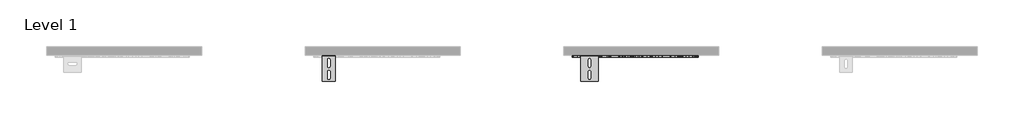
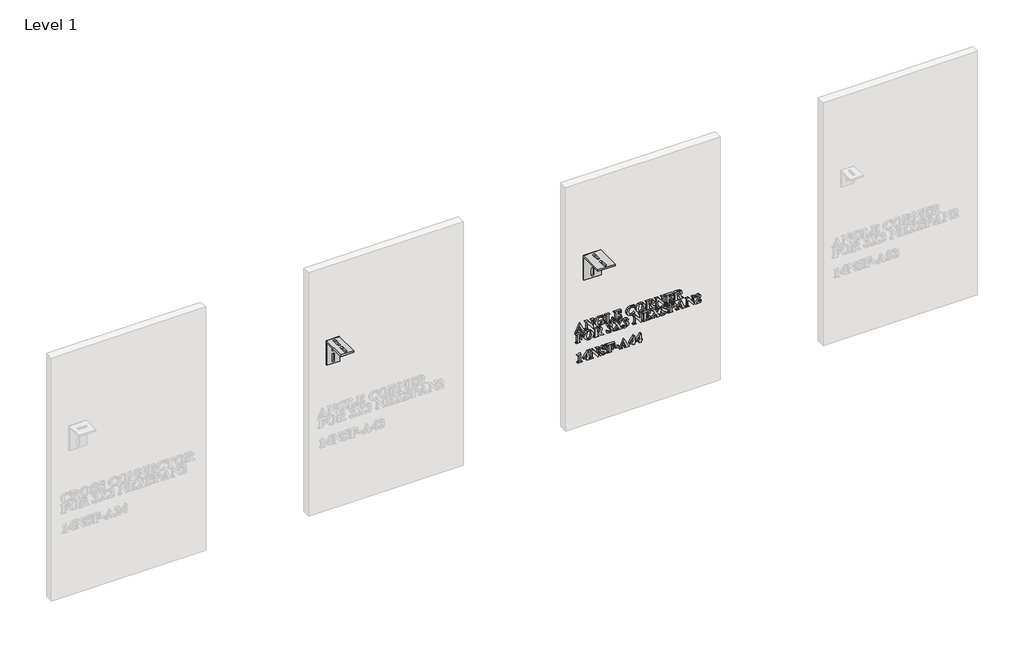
# One storey, part 8 of 21: 4 proxies.
"""IFC4 building model written with IfcOpenShell, lengths in millimetres."""

from ifc_helpers import new_model, si_unit, frame, origin, place, context, project, spatial, polyline, outline, extrude, transform, mapped, element, save
from components import generic_models_13be16ed, generic_models_ea1f8331

model = new_model("IFC4")

# Units and contexts
model_context = context("Model", 3, world=origin())
ifc_project = project(units=[si_unit("LENGTHUNIT", "METRE", prefix="MILLI")], contexts=[model_context])

# Site, building, storey
site = spatial("IfcSite", under=ifc_project)
building = spatial("IfcBuilding", under=site)
storey = spatial("IfcBuildingStorey", under=building, Name="Level 1", Elevation=0.0)

# Proxies
placement = place(None, origin())
element("IfcBuildingElementProxy", 1, Name="2\"\" Arial", ObjectType="2\"\" Arial", at=placement, inside=storey, context=model_context, shape_type="SweptSolid", body=[
    extrude(outline(polyline([(615.3485426, 10010.1620487), (608.7003734, 10013.0844731), (604.559118, 10014.4695083), (602.869375, 10013.6246368), (602.0522042, 10008.3061015), (600.2793591, 10008.3061015), (600.2793591, 10033.7076479), (602.0522042, 10033.7076479), (603.4095388, 10030.0096038), (610.9025794, 10025.577491), (653.4647125, 10005.9238409), (612.066009, 9987.1012119), (604.3375124, 9982.6344732), (602.0522042, 9978.0153807), (600.2793591, 9978.0153807), (600.2793591, 9995.7853829), (602.0522042, 9995.7853829), (602.9386268, 9990.6607525), (606.0272554, 9988.8879074), (610.0300072, 9989.9682349), (615.3485426, 9992.3781962), (615.3485426, 10010.1620487)]), holes=[polyline([(618.8942328, 10008.6108092), (618.8942328, 9993.9848371), (635.2376487, 10001.3947756), (618.8942328, 10008.6108092)])]), frame((0.0, -15490.3579358, 0.0), z_axis=(0.0, 1.0, 0.0), x_axis=(0.0, 0.0, 1.0)), (0.0, 0.0, 1.0), 12.7),
    extrude(outline(polyline([(652.5782899, 10053.6798561), (652.5782899, 10035.2588873), (650.8054448, 10035.2588873), (650.2029545, 10038.9223056), (647.0519993, 10042.5718734), (609.1435847, 10042.5718734), (603.693471, 10041.0137088), (602.0522042, 10035.480493), (600.2793591, 10035.480493), (600.2793591, 10053.2089441), (602.0522042, 10052.1147663), (603.5134164, 10047.938885), (609.1435847, 10046.1175637), (642.5506348, 10046.1175637), (599.3929366, 10079.9401243), (599.3929366, 10081.5744659), (641.9412193, 10081.5744659), (647.3774826, 10082.2323577), (649.6627907, 10084.0675294), (650.8054448, 10088.6658464), (652.5782899, 10088.6658464), (652.5782899, 10070.9373952), (650.8054448, 10070.9373952), (648.5616877, 10076.7683936), (641.9412193, 10078.0287757), (621.5119494, 10078.0287757), (652.5782899, 10053.6798561)])), frame((0.0, -15490.3579358, 0.0), z_axis=(0.0, 1.0, 0.0), x_axis=(0.0, 0.0, 1.0)), (0.0, 0.0, 1.0), 12.7),
    extrude(outline(polyline([(653.4647125, 10143.6240449), (653.4647125, 10141.8511997), (650.6600161, 10140.2237833), (649.9190223, 10138.2916592), (651.2625064, 10133.9841996), (652.896848, 10128.7072153), (653.4647125, 10121.975944), (651.4564114, 10110.9285566), (645.4315081, 10101.9414092), (636.4945682, 10095.9736386), (625.7501572, 10093.9843817), (613.9773577, 10096.6020983), (606.6505212, 10102.287668), (601.3943125, 10110.6809816), (599.3929366, 10122.6546113), (600.4663389, 10133.5271379), (603.6449948, 10143.6240449), (615.3485426, 10143.6240449), (618.3402187, 10143.9703037), (620.002261, 10145.750074), (620.6670779, 10149.8290028), (622.439923, 10149.8290028), (622.439923, 10124.1227486), (620.6670779, 10125.5354846), (620.0576624, 10128.9288209), (618.6864775, 10130.7709178), (615.3485426, 10131.2141291), (603.6449948, 10131.2141291), (602.4607896, 10127.4329829), (602.0522042, 10123.8457416), (604.7114719, 10115.1269447), (613.0355337, 10109.8153345), (626.2210692, 10108.1671426), (638.3193521, 10109.6837562), (647.5090609, 10114.8499377), (650.8054448, 10123.9980954), (646.961972, 10134.5866899), (635.7362614, 10141.8511997), (635.7362614, 10143.6240449), (653.4647125, 10143.6240449)])), frame((0.0, -15490.3579358, 0.0), z_axis=(0.0, 1.0, 0.0), x_axis=(0.0, 0.0, 1.0)), (0.0, 0.0, 1.0), 12.7),
    extrude(outline(polyline([(619.7806553, 10202.1279336), (619.7806553, 10200.3550885), (610.1269597, 10196.5600919), (605.3416629, 10191.809421), (603.8250493, 10184.9396462), (603.8250493, 10180.6321866), (604.1713081, 10176.0200192), (605.7848742, 10174.2194734), (610.8333277, 10173.7624118), (643.7140644, 10173.7624118), (648.298531, 10174.1363713), (650.0436754, 10175.5491072), (650.8054448, 10178.8177904), (650.8054448, 10180.8537922), (652.5782899, 10180.8537922), (652.5782899, 10154.2611155), (650.8054448, 10154.2611155), (650.8054448, 10155.9370082), (650.0990768, 10159.2887935), (648.4439597, 10160.9439106), (643.7140644, 10161.352496), (609.1435847, 10161.352496), (604.559118, 10160.9508358), (602.8139736, 10159.4549977), (602.0522042, 10155.9370082), (602.0522042, 10154.2611155), (600.2793591, 10154.2611155), (600.2793591, 10200.3550885), (619.7806553, 10202.1279336)])), frame((0.0, -15490.3579358, 0.0), z_axis=(0.0, 1.0, 0.0), x_axis=(0.0, 0.0, 1.0)), (0.0, 0.0, 1.0), 12.7),
    extrude(outline(polyline([(649.0325997, 10226.0613426), (649.0325997, 10230.4934554), (648.3400821, 10238.5266598), (644.7320653, 10244.2191546), (636.6226839, 10247.3354839), (636.6226839, 10249.1083291), (652.5782899, 10249.1083291), (652.5782899, 10206.5600464), (650.8054448, 10206.5600464), (650.8054448, 10208.235939), (649.7805187, 10212.086337), (647.827619, 10213.4713722), (643.7140644, 10213.6514268), (609.1435847, 10213.6514268), (604.559118, 10213.2497666), (602.8139736, 10211.7539285), (602.0522042, 10208.235939), (602.0522042, 10206.5600464), (600.2793591, 10206.5600464), (600.2793591, 10250.3687111), (616.8859317, 10251.3105351), (606.4427659, 10245.1956045), (602.9386268, 10233.8729414), (602.9386268, 10230.8535645), (603.5549675, 10227.7372352), (605.1339076, 10226.4145266), (610.4039667, 10226.0613426), (625.0991907, 10226.0613426), (624.0950401, 10231.068245), (620.1753904, 10234.1014722), (612.6892749, 10235.8119907), (612.6892749, 10237.5848358), (640.1683741, 10237.5848358), (640.1683741, 10235.8119907), (630.9024884, 10233.3050769), (627.7584584, 10226.0613426), (649.0325997, 10226.0613426)])), frame((0.0, -15490.3579358, 0.0), z_axis=(0.0, 1.0, 0.0), x_axis=(0.0, 0.0, 1.0)), (0.0, 0.0, 1.0), 12.7),
    extrude(outline(polyline([(653.4647125, 10327.9999366), (653.4647125, 10326.2270915), (650.7708189, 10325.0775122), (649.9190223, 10322.986109), (651.2209554, 10318.5816969), (653.4647125, 10307.1967072), (649.8012943, 10293.394831), (639.5035572, 10283.0693933), (625.4731502, 10279.246696), (612.2460636, 10282.7162093), (602.710096, 10292.570735), (599.3929366, 10307.1828569), (601.4220132, 10318.1107849), (607.9663047, 10327.113514), (612.4676693, 10327.113514), (605.0785062, 10318.740976), (602.9386268, 10309.9944784), (605.854126, 10300.5208373), (614.4551948, 10295.1469006), (627.0797911, 10293.4294569), (639.8636664, 10295.7563161), (647.1420266, 10301.490362), (649.9190223, 10310.1052812), (646.2625292, 10320.1675623), (635.7362614, 10326.2270915), (635.7362614, 10327.9999366), (653.4647125, 10327.9999366)])), frame((0.0, -15490.3579358, 0.0), z_axis=(0.0, 1.0, 0.0), x_axis=(0.0, 0.0, 1.0)), (0.0, 0.0, 1.0), 12.7),
    extrude(outline(polyline([(653.4647125, 10363.11058), (651.8788471, 10352.5687305), (646.1794271, 10343.8239642), (637.4606302, 10337.9392957), (626.8166344, 10335.9777396), (617.1733265, 10337.4839654), (608.9358294, 10342.0026429), (601.7786598, 10351.2200524), (599.3929366, 10363.6091927), (601.8929252, 10375.9671697), (609.392891, 10385.1741915), (626.8581854, 10390.9359381), (637.4969874, 10389.0038139), (646.2002026, 10383.2074414), (651.884041, 10374.3189777), (653.4647125, 10363.11058)]), holes=[polyline([(650.8054448, 10363.5676416), (648.6863409, 10370.1811849), (641.4356814, 10374.9041551), (625.9440622, 10376.7531772), (611.8444034, 10374.938781), (603.9774032, 10369.869552), (602.0522042, 10363.4983899), (606.5120177, 10354.6757154), (626.2487699, 10350.1605005), (643.4924587, 10353.0829248), (648.9771983, 10357.5046499), (650.8054448, 10363.5676416)])]), frame((0.0, -15490.3579358, 0.0), z_axis=(0.0, 1.0, 0.0), x_axis=(0.0, 0.0, 1.0)), (0.0, 0.0, 1.0), 12.7),
    extrude(outline(polyline([(624.2127681, 10414.8693471), (624.2127681, 10418.3042345), (600.2793591, 10435.0908617), (600.2793591, 10451.2126719), (602.0522042, 10451.2126719), (603.3956884, 10447.9439887), (607.7723998, 10444.7999587), (625.4592998, 10432.3900429), (628.9911397, 10439.3429199), (638.395529, 10443.2348689), (646.5326111, 10440.4717236), (651.2902072, 10433.3387921), (652.5782899, 10419.5369159), (652.5782899, 10395.3680509), (650.8054448, 10395.3680509), (650.2029545, 10400.1533476), (648.5963136, 10401.9469683), (643.7140644, 10402.4594313), (609.1435847, 10402.4594313), (604.2751858, 10401.9469683), (602.6685449, 10400.1741232), (602.0522042, 10395.3680509), (600.2793591, 10395.3680509), (600.2793591, 10421.9607275), (602.0522042, 10421.9607275), (602.6546946, 10417.1754308), (604.2613354, 10415.3818101), (609.1435847, 10414.8693471), (624.2127681, 10414.8693471)]), holes=[polyline([(649.9190223, 10414.8693471), (649.9190223, 10418.9967521), (647.0450741, 10428.0271819), (638.160073, 10430.8249531), (631.4288018, 10429.3014143), (627.862336, 10425.1116827), (626.8720358, 10417.0715531), (626.8720358, 10414.8693471), (649.9190223, 10414.8693471)])]), frame((0.0, -15490.3579358, 0.0), z_axis=(0.0, 1.0, 0.0), x_axis=(0.0, 0.0, 1.0)), (0.0, 0.0, 1.0), 12.7),
    extrude(outline(polyline([(652.5782899, 10470.2984576), (652.5782899, 10451.8774888), (650.8054448, 10451.8774888), (650.2029545, 10455.540907), (647.0519993, 10459.1904749), (609.1435847, 10459.1904749), (603.693471, 10457.6323103), (602.0522042, 10452.0990945), (600.2793591, 10452.0990945), (600.2793591, 10469.8275456), (602.0522042, 10468.7333677), (603.5134164, 10464.5574865), (609.1435847, 10462.7361651), (642.5506348, 10462.7361651), (599.3929366, 10496.5587258), (599.3929366, 10498.1930674), (641.9412193, 10498.1930674), (647.3774826, 10498.8509591), (649.6627907, 10500.6861308), (650.8054448, 10505.2844478), (652.5782899, 10505.2844478), (652.5782899, 10487.5559967), (650.8054448, 10487.5559967), (648.5616877, 10493.3869951), (641.9412193, 10494.6473772), (621.5119494, 10494.6473772), (652.5782899, 10470.2984576)])), frame((0.0, -15490.3579358, 0.0), z_axis=(0.0, 1.0, 0.0), x_axis=(0.0, 0.0, 1.0)), (0.0, 0.0, 1.0), 12.7),
    extrude(outline(polyline([(649.0325997, 10529.2178569), (649.0325997, 10533.6499696), (648.3400821, 10541.6831741), (644.7320653, 10547.3756689), (636.6226839, 10550.4919982), (636.6226839, 10552.2648433), (652.5782899, 10552.2648433), (652.5782899, 10509.7165606), (650.8054448, 10509.7165606), (650.8054448, 10511.3924533), (649.7805187, 10515.2428513), (647.827619, 10516.6278865), (643.7140644, 10516.8079411), (609.1435847, 10516.8079411), (604.559118, 10516.4062809), (602.8139736, 10514.9104428), (602.0522042, 10511.3924533), (602.0522042, 10509.7165606), (600.2793591, 10509.7165606), (600.2793591, 10553.5252254), (616.8859317, 10554.4670494), (606.4427659, 10548.3521188), (602.9386268, 10537.0294556), (602.9386268, 10534.0100788), (603.5549675, 10530.8937495), (605.1339076, 10529.5710409), (610.4039667, 10529.2178569), (625.0991907, 10529.2178569), (624.0950401, 10534.2247593), (620.1753904, 10537.2579865), (612.6892749, 10538.968505), (612.6892749, 10540.7413501), (640.1683741, 10540.7413501), (640.1683741, 10538.968505), (630.9024884, 10536.4615912), (627.7584584, 10529.2178569), (649.0325997, 10529.2178569)])), frame((0.0, -15490.3579358, 0.0), z_axis=(0.0, 1.0, 0.0), x_axis=(0.0, 0.0, 1.0)), (0.0, 0.0, 1.0), 12.7),
    extrude(outline(polyline([(624.2127681, 10580.6303651), (624.2127681, 10584.0652525), (600.2793591, 10600.8518797), (600.2793591, 10616.9736899), (602.0522042, 10616.9736899), (603.3956884, 10613.7050068), (607.7723998, 10610.5609768), (625.4592998, 10598.151061), (628.9911397, 10605.1039379), (638.395529, 10608.9958869), (646.5326111, 10606.2327416), (651.2902072, 10599.0998101), (652.5782899, 10585.2979339), (652.5782899, 10561.1290689), (650.8054448, 10561.1290689), (650.2029545, 10565.9143657), (648.5963136, 10567.7079863), (643.7140644, 10568.2204493), (609.1435847, 10568.2204493), (604.2751858, 10567.7079863), (602.6685449, 10565.9351412), (602.0522042, 10561.1290689), (600.2793591, 10561.1290689), (600.2793591, 10587.7217456), (602.0522042, 10587.7217456), (602.6546946, 10582.9364488), (604.2613354, 10581.1428282), (609.1435847, 10580.6303651), (624.2127681, 10580.6303651)]), holes=[polyline([(649.9190223, 10580.6303651), (649.9190223, 10584.7577702), (647.0450741, 10593.7882), (638.160073, 10596.5859711), (631.4288018, 10595.0624324), (627.862336, 10590.8727008), (626.8720358, 10582.8325712), (626.8720358, 10580.6303651), (649.9190223, 10580.6303651)])]), frame((0.0, -15490.3579358, 0.0), z_axis=(0.0, 1.0, 0.0), x_axis=(0.0, 0.0, 1.0)), (0.0, 0.0, 1.0), 12.7),
    extrude(outline(polyline([(584.9362614, 9999.1371682), (584.9362614, 10003.569281), (584.3406962, 10012.1287988), (580.6288018, 10018.5415119), (572.5263456, 10021.2977321), (572.5263456, 10023.0705772), (588.4819516, 10023.0705772), (588.4819516, 9979.6358719), (586.7091065, 9979.6358719), (586.7091065, 9981.3117646), (586.0027385, 9984.6635499), (584.3476214, 9986.318667), (579.617726, 9986.7272524), (545.0472463, 9986.7272524), (540.4627797, 9986.3255922), (538.7176353, 9984.8297541), (537.9558659, 9981.3117646), (537.9558659, 9979.6358719), (536.1830208, 9979.6358719), (536.1830208, 10006.2285486), (537.9558659, 10006.2285486), (537.9558659, 10004.5665063), (538.6622338, 10001.2216462), (540.317351, 9999.5596039), (545.0472463, 9999.1371682), (561.0028523, 9999.1371682), (561.0028523, 10000.9100133), (558.5859658, 10007.8213392), (548.5929366, 10011.547084), (548.5929366, 10013.3199291), (576.9584584, 10013.3199291), (576.9584584, 10011.547084), (569.5762205, 10009.6911367), (565.6981218, 10006.2077731), (564.5485426, 10000.9100133), (564.5485426, 9999.1371682), (584.9362614, 9999.1371682)])), frame((0.0, -15490.3579358, 0.0), z_axis=(0.0, 1.0, 0.0), x_axis=(0.0, 0.0, 1.0)), (0.0, 0.0, 1.0), 12.7),
    extrude(outline(polyline([(589.3683741, 10055.521953), (587.7825088, 10044.9801035), (582.0830888, 10036.2353372), (573.3642919, 10030.3506687), (562.720296, 10028.3891125), (553.0769882, 10029.8953384), (544.839491, 10034.4140158), (537.6823214, 10043.6314254), (535.2965982, 10056.0205657), (537.7965868, 10068.3785426), (545.2965527, 10077.5855644), (562.7618471, 10083.347311), (573.4006491, 10081.4151869), (582.1038643, 10075.6188144), (587.7877027, 10066.7303507), (589.3683741, 10055.521953)]), holes=[polyline([(586.7091065, 10055.9790146), (584.5900026, 10062.5925579), (577.339343, 10067.3155281), (561.8477238, 10069.1645501), (547.7480651, 10067.350154), (539.8810649, 10062.280925), (537.9558659, 10055.9097628), (542.4156794, 10047.0870883), (562.1524316, 10042.5718734), (579.3961204, 10045.4942978), (584.88086, 10049.9160228), (586.7091065, 10055.9790146)])]), frame((0.0, -15490.3579358, 0.0), z_axis=(0.0, 1.0, 0.0), x_axis=(0.0, 0.0, 1.0)), (0.0, 0.0, 1.0), 12.7),
    extrude(outline(polyline([(560.1164298, 10107.28072), (560.1164298, 10110.7156075), (536.1830208, 10127.5022346), (536.1830208, 10143.6240449), (537.9558659, 10143.6240449), (539.2993501, 10140.3553617), (543.6760614, 10137.2113317), (561.3629615, 10124.8014159), (564.8948014, 10131.7542928), (574.2991907, 10135.6462418), (582.4362727, 10132.8830965), (587.1938688, 10125.750165), (588.4819516, 10111.9482888), (588.4819516, 10087.7794238), (586.7091065, 10087.7794238), (586.1066161, 10092.5647206), (584.4999753, 10094.3583412), (579.617726, 10094.8708043), (545.0472463, 10094.8708043), (540.1788474, 10094.3583412), (538.5722066, 10092.5854961), (537.9558659, 10087.7794238), (536.1830208, 10087.7794238), (536.1830208, 10114.3721005), (537.9558659, 10114.3721005), (538.5583562, 10109.5868037), (540.1649971, 10107.7931831), (545.0472463, 10107.28072), (560.1164298, 10107.28072)]), holes=[polyline([(585.8226839, 10107.28072), (585.8226839, 10111.4081251), (582.9487358, 10120.4385549), (574.0637347, 10123.2363261), (567.3324634, 10121.7127873), (563.7659977, 10117.5230557), (562.7756975, 10109.4829261), (562.7756975, 10107.28072), (585.8226839, 10107.28072)])]), frame((0.0, -15490.3579358, 0.0), z_axis=(0.0, 1.0, 0.0), x_axis=(0.0, 0.0, 1.0)), (0.0, 0.0, 1.0), 12.7),
    extrude(outline(polyline([(564.5485426, 10172.8759892), (558.3782106, 10184.7665168), (548.6206373, 10188.8315952), (542.8796662, 10186.7263417), (540.6151335, 10181.6848134), (543.7314628, 10174.4272287), (547.1524999, 10169.9258641), (547.706514, 10167.4605014), (546.2176011, 10164.4341994), (542.6234346, 10163.1253411), (537.9004645, 10165.3829485), (535.2965982, 10175.3275016), (536.8114805, 10184.5033601), (541.3561274, 10191.6155161), (548.0648919, 10196.1757446), (556.0721269, 10197.6958208), (564.6177943, 10194.8564985), (570.3518402, 10186.6155388), (574.5554222, 10193.0005513), (579.5207736, 10195.0365531), (586.4182491, 10191.4008356), (589.3683741, 10182.1695757), (586.9237869, 10172.2180975), (579.105263, 10165.7846088), (584.0498388, 10175.1751477), (581.6883537, 10181.1238741), (576.0304847, 10183.5130599), (571.3282901, 10182.2319023), (567.8795523, 10179.1917499), (564.5485426, 10172.8759892)])), frame((0.0, -15490.3579358, 0.0), z_axis=(0.0, 1.0, 0.0), x_axis=(0.0, 0.0, 1.0)), (0.0, 0.0, 1.0), 12.7),
    extrude(outline(polyline([(566.5845444, 10235.2302759), (578.4681468, 10244.7177673), (584.2021927, 10249.7315949), (586.1481672, 10252.6955703), (586.7091065, 10256.3520634), (588.4819516, 10256.3520634), (588.4819516, 10236.9200189), (586.7091065, 10236.9200189), (586.2243441, 10240.382607), (584.88086, 10242.1000507), (583.0110624, 10242.6956159), (575.9473826, 10238.457408), (569.5069687, 10233.3050769), (579.146814, 10226.9754659), (584.3406962, 10224.0530415), (586.0304392, 10224.939464), (586.7091065, 10229.3577265), (588.4819516, 10229.3577265), (588.4819516, 10203.8176766), (586.7091065, 10203.8176766), (585.9334867, 10206.5877471), (584.2021927, 10208.6237489), (579.0775623, 10212.363344), (559.4377625, 10225.2718725), (546.8616425, 10215.2026663), (539.7425613, 10208.000483), (537.9558659, 10202.6126959), (536.1830208, 10202.6126959), (536.1830208, 10222.9588636), (537.9558659, 10222.9588636), (538.1774715, 10219.6486294), (539.4655543, 10216.9131848), (541.4046036, 10215.9921364), (547.000146, 10219.5655273), (556.5291885, 10227.1832211), (545.781315, 10234.2469009), (540.4627797, 10237.2108763), (538.8422884, 10236.3244538), (537.9558659, 10232.404804), (536.1830208, 10232.404804), (536.1830208, 10257.6955476), (537.9558659, 10257.6955476), (539.2993501, 10254.0944559), (545.6428115, 10248.9836759), (566.5845444, 10235.2302759)])), frame((0.0, -15490.3579358, 0.0), z_axis=(0.0, 1.0, 0.0), x_axis=(0.0, 0.0, 1.0)), (0.0, 0.0, 1.0), 12.7),
    extrude(outline(polyline([(564.5485426, 10268.6096253), (558.3782106, 10280.5001529), (548.6206373, 10284.5652313), (542.8796662, 10282.4599777), (540.6151335, 10277.4184495), (543.7314628, 10270.1608648), (547.1524999, 10265.6595002), (547.706514, 10263.1941375), (546.2176011, 10260.1678355), (542.6234346, 10258.8589772), (537.9004645, 10261.1165846), (535.2965982, 10271.0611377), (536.8114805, 10280.2369962), (541.3561274, 10287.3491522), (548.0648919, 10291.9093807), (556.0721269, 10293.4294569), (564.6177943, 10290.5901346), (570.3518402, 10282.3491749), (574.5554222, 10288.7341874), (579.5207736, 10290.7701892), (586.4182491, 10287.1344717), (589.3683741, 10277.9032118), (586.9237869, 10267.9517336), (579.105263, 10261.5182448), (584.0498388, 10270.9087838), (581.6883537, 10276.8575102), (576.0304847, 10279.246696), (571.3282901, 10277.9655384), (567.8795523, 10274.925386), (564.5485426, 10268.6096253)])), frame((0.0, -15490.3579358, 0.0), z_axis=(0.0, 1.0, 0.0), x_axis=(0.0, 0.0, 1.0)), (0.0, 0.0, 1.0), 12.7),
    extrude(outline(polyline([(588.4819516, 10337.3350741), (588.4819516, 10318.9141054), (586.7091065, 10318.9141054), (586.1066161, 10322.5775236), (582.955661, 10326.2270915), (545.0472463, 10326.2270915), (539.5971326, 10324.6689268), (537.9558659, 10319.135711), (536.1830208, 10319.135711), (536.1830208, 10336.8641621), (537.9558659, 10335.7699843), (539.4170781, 10331.594103), (545.0472463, 10329.7727817), (578.4542964, 10329.7727817), (535.2965982, 10363.5953424), (535.2965982, 10365.2296839), (577.8448809, 10365.2296839), (583.2811442, 10365.8875757), (585.5664524, 10367.7227474), (586.7091065, 10372.3210644), (588.4819516, 10372.3210644), (588.4819516, 10354.5926133), (586.7091065, 10354.5926133), (584.4653494, 10360.4236116), (577.8448809, 10361.6839937), (557.4156111, 10361.6839937), (588.4819516, 10337.3350741)])), frame((0.0, -15490.3579358, 0.0), z_axis=(0.0, 1.0, 0.0), x_axis=(0.0, 0.0, 1.0)), (0.0, 0.0, 1.0), 12.7),
    extrude(outline(polyline([(584.9362614, 10396.2544734), (584.9362614, 10400.6865862), (584.2437437, 10408.7197906), (580.6357269, 10414.4122855), (572.5263456, 10417.5286148), (572.5263456, 10419.3014599), (588.4819516, 10419.3014599), (588.4819516, 10376.7531772), (586.7091065, 10376.7531772), (586.7091065, 10378.4290698), (585.6841804, 10382.2794678), (583.7312807, 10383.664503), (579.617726, 10383.8445576), (545.0472463, 10383.8445576), (540.4627797, 10383.4428974), (538.7176353, 10381.9470593), (537.9558659, 10378.4290698), (537.9558659, 10376.7531772), (536.1830208, 10376.7531772), (536.1830208, 10420.561842), (552.7895933, 10421.5036659), (542.3464276, 10415.3887353), (538.8422884, 10404.0660722), (538.8422884, 10401.0466954), (539.4586291, 10397.9303661), (541.0375693, 10396.6076574), (546.3076284, 10396.2544734), (561.0028523, 10396.2544734), (559.9987018, 10401.2613758), (556.079052, 10404.294603), (548.5929366, 10406.0051215), (548.5929366, 10407.7779666), (576.0720358, 10407.7779666), (576.0720358, 10406.0051215), (566.80615, 10403.4982077), (563.66212, 10396.2544734), (584.9362614, 10396.2544734)])), frame((0.0, -15490.3579358, 0.0), z_axis=(0.0, 1.0, 0.0), x_axis=(0.0, 0.0, 1.0)), (0.0, 0.0, 1.0), 12.7),
    extrude(outline(polyline([(566.5845444, 10459.4951827), (578.4681468, 10468.9826741), (584.2021927, 10473.9965017), (586.1481672, 10476.9604771), (586.7091065, 10480.6169701), (588.4819516, 10480.6169701), (588.4819516, 10461.1849257), (586.7091065, 10461.1849257), (586.2243441, 10464.6475138), (584.88086, 10466.3649575), (583.0110624, 10466.9605226), (575.9473826, 10462.7223148), (569.5069687, 10457.5699837), (579.146814, 10451.2403726), (584.3406962, 10448.3179482), (586.0304392, 10449.2043708), (586.7091065, 10453.6226332), (588.4819516, 10453.6226332), (588.4819516, 10428.0825833), (586.7091065, 10428.0825833), (585.9334867, 10430.8526538), (584.2021927, 10432.8886556), (579.0775623, 10436.6282508), (559.4377625, 10449.5367793), (546.8616425, 10439.467573), (539.7425613, 10432.2653898), (537.9558659, 10426.8776027), (536.1830208, 10426.8776027), (536.1830208, 10447.2237704), (537.9558659, 10447.2237704), (538.1774715, 10443.9135362), (539.4655543, 10441.1780916), (541.4046036, 10440.2570431), (547.000146, 10443.8304341), (556.5291885, 10451.4481279), (545.781315, 10458.5118076), (540.4627797, 10461.4757831), (538.8422884, 10460.5893605), (537.9558659, 10456.6697108), (536.1830208, 10456.6697108), (536.1830208, 10481.9604543), (537.9558659, 10481.9604543), (539.2993501, 10478.3593627), (545.6428115, 10473.2485826), (566.5845444, 10459.4951827)])), frame((0.0, -15490.3579358, 0.0), z_axis=(0.0, 1.0, 0.0), x_axis=(0.0, 0.0, 1.0)), (0.0, 0.0, 1.0), 12.7),
    extrude(outline(polyline([(589.3683741, 10521.2400539), (589.3683741, 10519.4672087), (586.4320994, 10518.3591806), (585.8226839, 10516.724839), (587.0622905, 10512.9644683), (588.7589586, 10508.4146275), (589.3683741, 10503.3315481), (585.040139, 10491.3994695), (574.548497, 10486.6695742), (567.9418789, 10488.3039157), (562.5056156, 10492.9853349), (556.5984403, 10503.8301608), (552.5541373, 10511.5863582), (549.2854542, 10514.8481162), (545.7259136, 10515.9215185), (540.2896503, 10513.2553257), (537.9558659, 10506.0877683), (542.2702507, 10495.2360171), (554.7978944, 10488.4424193), (554.7978944, 10486.6695742), (535.2965982, 10486.6695742), (535.2965982, 10488.4424193), (537.9697162, 10490.2637406), (538.8422884, 10492.4036201), (537.9835666, 10495.464548), (535.8575375, 10501.0116141), (535.2965982, 10505.6999584), (539.9780173, 10518.7608408), (551.1691021, 10523.8993215), (560.2687837, 10521.2816049), (568.7174987, 10508.5946821), (573.2050128, 10499.4534495), (576.7645534, 10495.5337997), (579.8254813, 10494.6473772), (584.6246284, 10497.0711888), (586.7091065, 10503.6501063), (582.5747763, 10513.6639111), (571.639923, 10519.4672087), (571.639923, 10521.2400539), (589.3683741, 10521.2400539)])), frame((0.0, -15490.3579358, 0.0), z_axis=(0.0, 1.0, 0.0), x_axis=(0.0, 0.0, 1.0)), (0.0, 0.0, 1.0), 12.7),
    extrude(outline(polyline([(560.1164298, 10546.946308), (561.030553, 10560.2010953), (565.9266526, 10569.3354027), (574.5623474, 10572.6525621), (584.5069004, 10567.6041087), (588.4819516, 10550.9490598), (588.4819516, 10527.4450118), (586.7091065, 10527.4450118), (586.1066161, 10532.2303085), (584.4999753, 10534.0239292), (579.617726, 10534.5363922), (545.0472463, 10534.5363922), (540.1788474, 10534.0239292), (538.5722066, 10532.2510841), (537.9558659, 10527.4450118), (536.1830208, 10527.4450118), (536.1830208, 10554.0376884), (537.9558659, 10554.0376884), (538.5583562, 10549.266242), (540.1649971, 10547.458771), (545.0472463, 10546.946308), (560.1164298, 10546.946308)]), holes=[polyline([(585.8226839, 10546.946308), (585.8226839, 10548.7330035), (583.0664638, 10557.3548479), (574.3822928, 10560.2426463), (565.5457679, 10557.3548479), (562.6925953, 10549.1346637), (562.7756975, 10546.946308), (585.8226839, 10546.946308)])]), frame((0.0, -15490.3579358, 0.0), z_axis=(0.0, 1.0, 0.0), x_axis=(0.0, 0.0, 1.0)), (0.0, 0.0, 1.0), 12.7),
    extrude(outline(polyline([(551.2522042, 10606.7244291), (544.604035, 10609.6468535), (540.4627797, 10611.0318887), (538.7730367, 10610.1870172), (537.9558659, 10604.8684819), (536.1830208, 10604.8684819), (536.1830208, 10630.2700283), (537.9558659, 10630.2700283), (539.3132004, 10626.5719842), (546.8062411, 10622.1398714), (589.3683741, 10602.4862213), (547.9696707, 10583.6635923), (540.241174, 10579.1968537), (537.9558659, 10574.5777611), (536.1830208, 10574.5777611), (536.1830208, 10592.3477633), (537.9558659, 10592.3477633), (538.8422884, 10587.2231329), (541.930917, 10585.4502878), (545.9336689, 10586.5306153), (551.2522042, 10588.9405766), (551.2522042, 10606.7244291)]), holes=[polyline([(554.7978944, 10605.1731897), (554.7978944, 10590.5472175), (571.1413103, 10597.957156), (554.7978944, 10605.1731897)])]), frame((0.0, -15490.3579358, 0.0), z_axis=(0.0, 1.0, 0.0), x_axis=(0.0, 0.0, 1.0)), (0.0, 0.0, 1.0), 12.7),
    extrude(outline(polyline([(588.4819516, 10650.2422365), (588.4819516, 10631.8212678), (586.7091065, 10631.8212678), (586.1066161, 10635.484686), (582.955661, 10639.1342539), (545.0472463, 10639.1342539), (539.5971326, 10637.5760892), (537.9558659, 10632.0428734), (536.1830208, 10632.0428734), (536.1830208, 10649.7713245), (537.9558659, 10648.6771467), (539.4170781, 10644.5012654), (545.0472463, 10642.6799441), (578.4542964, 10642.6799441), (535.2965982, 10676.5025047), (535.2965982, 10678.1368463), (577.8448809, 10678.1368463), (583.2811442, 10678.7947381), (585.5664524, 10680.6299098), (586.7091065, 10685.2282268), (588.4819516, 10685.2282268), (588.4819516, 10667.4997757), (586.7091065, 10667.4997757), (584.4653494, 10673.330774), (577.8448809, 10674.5911561), (557.4156111, 10674.5911561), (588.4819516, 10650.2422365)])), frame((0.0, -15490.3579358, 0.0), z_axis=(0.0, 1.0, 0.0), x_axis=(0.0, 0.0, 1.0)), (0.0, 0.0, 1.0), 12.7),
    extrude(outline(polyline([(536.1830208, 10719.3139441), (551.2522042, 10720.9344354), (548.1635756, 10718.836107), (547.1247992, 10716.8001052), (546.8200914, 10711.446944), (546.8200914, 10700.2835599), (566.3906394, 10717.0009353), (576.6260499, 10719.7987065), (582.5609259, 10717.9081334), (587.5470528, 10712.6796253), (589.3683741, 10705.2973875), (585.864235, 10695.3043582), (574.548497, 10690.2836054), (579.0152357, 10694.4525615), (580.5041486, 10700.0342535), (577.8241054, 10706.5092933), (571.0997593, 10709.1616358), (559.7286199, 10706.0591569), (536.1830208, 10687.8874945), (536.1830208, 10719.3139441)])), frame((0.0, -15490.3579358, 0.0), z_axis=(0.0, 1.0, 0.0), x_axis=(0.0, 0.0, 1.0)), (0.0, 0.0, 1.0), 12.7),
])
element("IfcBuildingElementProxy", 2, Name="2\"\" Arial", ObjectType="2\"\" Arial", at=placement, inside=storey, context=model_context, shape_type="SweptSolid", body=[
    extrude(outline(polyline([(463.8692305, 10008.4026674), (455.0050049, 9988.6451396), (453.2321598, 9989.3099565), (454.4648412, 9993.8667225), (453.827725, 9995.9442753), (452.3111114, 9997.1769567), (447.9136245, 9997.5093652), (421.3209478, 9997.5093652), (415.2544934, 9996.9899769), (413.2046413, 9995.0024514), (412.4567222, 9988.6451396), (410.6838771, 9988.6451396), (410.6838771, 10017.0106614), (412.4567222, 10015.77798), (413.273893, 10011.3043162), (415.3791466, 10009.4691445), (421.3209478, 10009.0328584), (463.8692305, 10008.4026674)])), frame((0.0, -15490.3579358, 0.0), z_axis=(0.0, 1.0, 0.0), x_axis=(0.0, 0.0, 1.0)), (0.0, 0.0, 1.0), 12.7),
    extrude(outline(polyline([(430.1851733, 10025.874887), (422.2073703, 10025.874887), (422.2073703, 10044.4897607), (410.6838771, 10044.4897607), (410.6838771, 10056.0132539), (422.2073703, 10056.0132539), (422.2073703, 10060.4453667), (430.1851733, 10060.4453667), (430.1851733, 10056.0132539), (463.8692305, 10056.0132539), (463.8692305, 10050.9024738), (430.1851733, 10025.874887)]), holes=[polyline([(430.1851733, 10028.5618553), (451.6116686, 10044.4897607), (430.1851733, 10044.4897607), (430.1851733, 10028.5618553)])]), frame((0.0, -15490.3579358, 0.0), z_axis=(0.0, 1.0, 0.0), x_axis=(0.0, 0.0, 1.0)), (0.0, 0.0, 1.0), 12.7),
    extrude(outline(polyline([(462.9828079, 10083.0768426), (462.9828079, 10064.6558738), (461.2099628, 10064.6558738), (460.6074725, 10068.319292), (457.4565173, 10071.9688599), (419.5481027, 10071.9688599), (414.097989, 10070.4106952), (412.4567222, 10064.8774794), (410.6838771, 10064.8774794), (410.6838771, 10082.6059306), (412.4567222, 10081.5117527), (413.9179344, 10077.3358715), (419.5481027, 10075.5145501), (452.9551528, 10075.5145501), (409.7974546, 10109.3371108), (409.7974546, 10110.9714524), (452.3457373, 10110.9714524), (457.7820006, 10111.6293441), (460.0673087, 10113.4645158), (461.2099628, 10118.0628328), (462.9828079, 10118.0628328), (462.9828079, 10100.3343817), (461.2099628, 10100.3343817), (458.9662057, 10106.1653801), (452.3457373, 10107.4257622), (431.9164674, 10107.4257622), (462.9828079, 10083.0768426)])), frame((0.0, -15490.3579358, 0.0), z_axis=(0.0, 1.0, 0.0), x_axis=(0.0, 0.0, 1.0)), (0.0, 0.0, 1.0), 12.7),
    extrude(outline(polyline([(463.8692305, 10158.8382704), (463.8692305, 10157.0654253), (460.9329558, 10155.9573971), (460.3235403, 10154.3230555), (461.5631468, 10150.5626848), (463.259815, 10146.0128441), (463.8692305, 10140.9297647), (459.5409954, 10128.9976861), (449.0493534, 10124.2677907), (442.4427353, 10125.9021323), (437.0064719, 10130.5835514), (431.0992966, 10141.4283774), (427.0549937, 10149.1845748), (423.7863105, 10152.4463328), (420.2267699, 10153.5197351), (414.7905066, 10150.8535422), (412.4567222, 10143.6859848), (416.771107, 10132.8342337), (429.2987508, 10126.0406358), (429.2987508, 10124.2677907), (409.7974546, 10124.2677907), (409.7974546, 10126.0406358), (412.4705726, 10127.8619572), (413.3431448, 10130.0018366), (412.4844229, 10133.0627645), (410.3583938, 10138.6098307), (409.7974546, 10143.298175), (414.4788737, 10156.3590573), (425.6699585, 10161.4975381), (434.76964, 10158.8798215), (443.218355, 10146.1928986), (447.7058692, 10137.051666), (451.2654098, 10133.1320163), (454.3263377, 10132.2455937), (459.1254848, 10134.6694054), (461.2099628, 10141.2483228), (457.0756326, 10151.2621276), (446.1407794, 10157.0654253), (446.1407794, 10158.8382704), (463.8692305, 10158.8382704)])), frame((0.0, -15490.3579358, 0.0), z_axis=(0.0, 1.0, 0.0), x_axis=(0.0, 0.0, 1.0)), (0.0, 0.0, 1.0), 12.7),
    extrude(outline(polyline([(459.4371177, 10185.4309471), (459.4371177, 10189.8630599), (458.8415526, 10198.4225777), (455.1296581, 10204.8352909), (447.0272019, 10207.591511), (447.0272019, 10209.3643561), (462.9828079, 10209.3643561), (462.9828079, 10165.9296509), (461.2099628, 10165.9296509), (461.2099628, 10167.6055435), (460.5035948, 10170.9573288), (458.8484777, 10172.6124459), (454.1185824, 10173.0210313), (419.5481027, 10173.0210313), (414.963636, 10172.6193711), (413.2184916, 10171.123533), (412.4567222, 10167.6055435), (412.4567222, 10165.9296509), (410.6838771, 10165.9296509), (410.6838771, 10192.5223276), (412.4567222, 10192.5223276), (412.4567222, 10190.8602853), (413.1630902, 10187.5154252), (414.8182073, 10185.8533829), (419.5481027, 10185.4309471), (435.5037087, 10185.4309471), (435.5037087, 10187.2037922), (433.0868222, 10194.1151181), (423.0937929, 10197.8408629), (423.0937929, 10199.613708), (451.4593147, 10199.613708), (451.4593147, 10197.8408629), (444.0770768, 10195.9849157), (440.1989782, 10192.501552), (439.0493989, 10187.2037922), (439.0493989, 10185.4309471), (459.4371177, 10185.4309471)])), frame((0.0, -15490.3579358, 0.0), z_axis=(0.0, 1.0, 0.0), x_axis=(0.0, 0.0, 1.0)), (0.0, 0.0, 1.0), 12.7),
    extrude(outline(polyline([(10235.0706103, -15490.3579358), (10212.9100464, -15490.3579358), (10212.9100464, -15477.6579358), (10235.0706103, -15477.6579358), (10235.0706103, -15490.3579358)])), frame((0.0, 0.0, 424.866638), z_axis=(0.0, 0.0, 1.0), x_axis=(1.0, 0.0, 0.0)), (0.0, 0.0, 1.0), 7.977803),
    extrude(outline(polyline([(425.7530606, 10270.9153224), (419.1048914, 10273.8377468), (414.963636, 10275.222782), (413.273893, 10274.3779105), (412.4567222, 10269.0593752), (410.6838771, 10269.0593752), (410.6838771, 10294.4609215), (412.4567222, 10294.4609215), (413.8140568, 10290.7628774), (421.3070974, 10286.3307647), (463.8692305, 10266.6771145), (422.470527, 10247.8544856), (414.7420304, 10243.3877469), (412.4567222, 10238.7686544), (410.6838771, 10238.7686544), (410.6838771, 10256.5386566), (412.4567222, 10256.5386566), (413.3431448, 10251.4140261), (416.4317734, 10249.641181), (420.4345252, 10250.7215085), (425.7530606, 10253.1314699), (425.7530606, 10270.9153224)]), holes=[polyline([(429.2987508, 10269.3640829), (429.2987508, 10254.7381107), (445.6421667, 10262.1480493), (429.2987508, 10269.3640829)])]), frame((0.0, -15490.3579358, 0.0), z_axis=(0.0, 1.0, 0.0), x_axis=(0.0, 0.0, 1.0)), (0.0, 0.0, 1.0), 12.7),
    extrude(outline(polyline([(430.1851733, 10297.1201892), (422.2073703, 10297.1201892), (422.2073703, 10315.7350629), (410.6838771, 10315.7350629), (410.6838771, 10327.2585561), (422.2073703, 10327.2585561), (422.2073703, 10331.6906689), (430.1851733, 10331.6906689), (430.1851733, 10327.2585561), (463.8692305, 10327.2585561), (463.8692305, 10322.1477761), (430.1851733, 10297.1201892)]), holes=[polyline([(430.1851733, 10299.8071576), (451.6116686, 10315.7350629), (430.1851733, 10315.7350629), (430.1851733, 10299.8071576)])]), frame((0.0, -15490.3579358, 0.0), z_axis=(0.0, 1.0, 0.0), x_axis=(0.0, 0.0, 1.0)), (0.0, 0.0, 1.0), 12.7),
    extrude(outline(polyline([(430.1851733, 10337.0092042), (422.2073703, 10337.0092042), (422.2073703, 10355.6240779), (410.6838771, 10355.6240779), (410.6838771, 10367.1475712), (422.2073703, 10367.1475712), (422.2073703, 10371.5796839), (430.1851733, 10371.5796839), (430.1851733, 10367.1475712), (463.8692305, 10367.1475712), (463.8692305, 10362.0367911), (430.1851733, 10337.0092042)]), holes=[polyline([(430.1851733, 10339.6961726), (451.6116686, 10355.6240779), (430.1851733, 10355.6240779), (430.1851733, 10339.6961726)])]), frame((0.0, -15490.3579358, 0.0), z_axis=(0.0, 1.0, 0.0), x_axis=(0.0, 0.0, 1.0)), (0.0, 0.0, 1.0), 12.7),
])
generic_models_shape = generic_models_13be16ed(model_context)
element("IfcBuildingElementProxy", 3, Name="14NSF-A43 : 14NSF-A43", ObjectType="14NSF-A43 : 14NSF-A43", at=placement, inside=storey, context=model_context, shape_type="MappedRepresentation", body=[
    mapped(generic_models_shape, transform((8542.880478, -15477.6579358, 1066.8), x_axis=(1.0, 0.0, 0.0), y_axis=(0.0, 0.0, 1.0), z_axis=(0.0, -1.0, 0.0))),
])
generic_models_2_shape = generic_models_ea1f8331(model_context)
element("IfcBuildingElementProxy", 4, Name="14NSF-A44 : 14NSF-A44", ObjectType="14NSF-A44 : 14NSF-A44", at=placement, inside=storey, context=model_context, shape_type="MappedRepresentation", body=[
    mapped(generic_models_2_shape, transform((10079.580478, -15477.6579358, 1066.8), x_axis=(1.0, 0.0, 0.0), y_axis=(0.0, 0.0, 1.0), z_axis=(0.0, -1.0, 0.0))),
])

save(model, "model.ifc")
